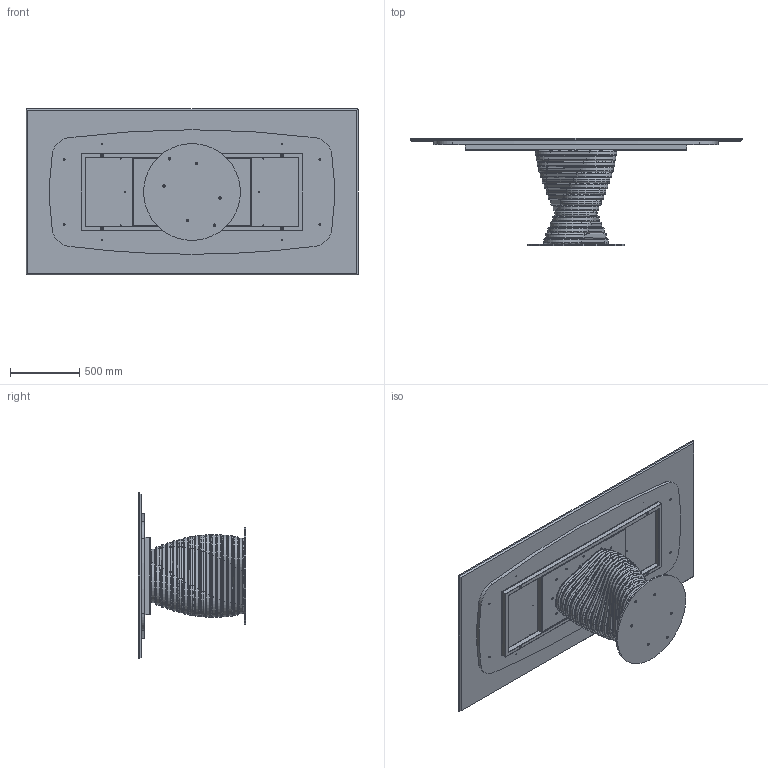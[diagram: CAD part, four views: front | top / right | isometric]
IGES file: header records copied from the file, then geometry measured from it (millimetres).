
Start section: SolidWorks IGES file using analytic representation for surfaces
Global section: file name: Y:\eforma\TECNICO\SOLIDWORKS\E-FORMA\1-TAVOLI\ROTOLO\02 parts\RO23M.IGS; native system: SolidWorks 2022; preprocessor: SolidWorks 2022; author: eforma.tech; date: 240807.153531; units: millimetre
Bounding box: 2400 x 777 x 1200 mm (x, y, z)
Volume: 113441401.3 mm3; surface area: 17294741.5 mm2
Topology: 95 solids, 95 shells, 1719 faces, 4097 edges, 2519 vertices
Faces by surface type: revolution 1055, plane 664
